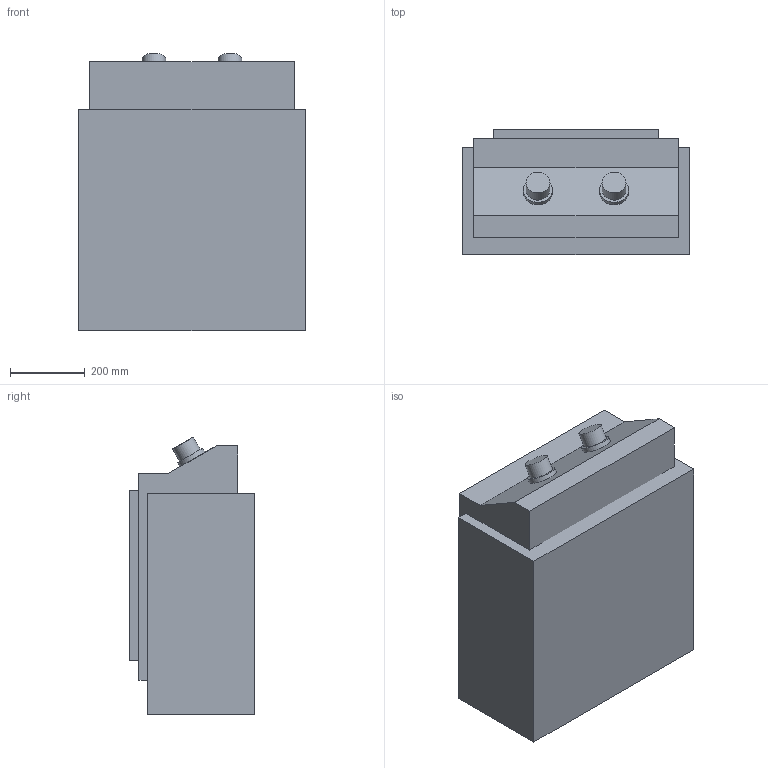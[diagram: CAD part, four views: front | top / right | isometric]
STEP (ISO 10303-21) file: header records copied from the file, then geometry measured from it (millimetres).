
FILE_DESCRIPTION (( 'STEP AP203' ), '1' );
FILE_NAME ('BIB18RT_WITH_LINER.STEP', '2020-04-24T15:52:11', ( '8DNKR52' ), ( 'Microsoft' ), 'SwSTEP 2.0', 'SolidWorks 2019', '' );
FILE_SCHEMA (( 'CONFIG_CONTROL_DESIGN' ));
Length unit declared in the file: inch
Products named in the file (1): BIB18RT_WITH_LINER
Bounding box: 603.25 x 334.37 x 740.82 mm (x, y, z)
Surface area: 2708477 mm2
Topology: 2 solids, 2 shells, 33 faces, 73 edges, 49 vertices
Faces by surface type: plane 29, cylinder 4
Full cylindrical faces by diameter (mm): 63.5 x2, 77.788 x2
Entity records: 951 total; most frequent: CARTESIAN_POINT 150, DIRECTION 144, ORIENTED_EDGE 136, EDGE_CURVE 68, VECTOR 60, LINE 60, VERTEX_POINT 48, AXIS2_PLACEMENT_3D 42
